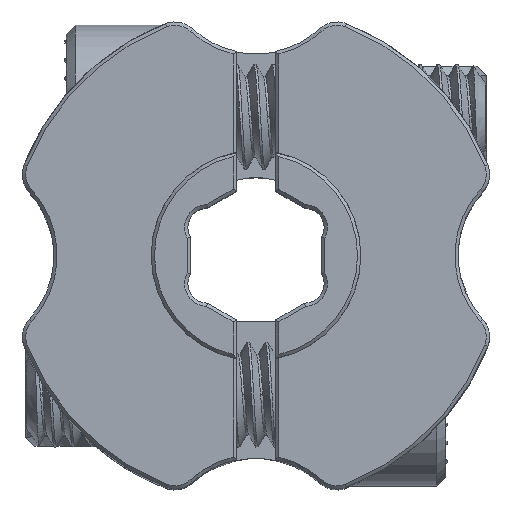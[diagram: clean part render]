
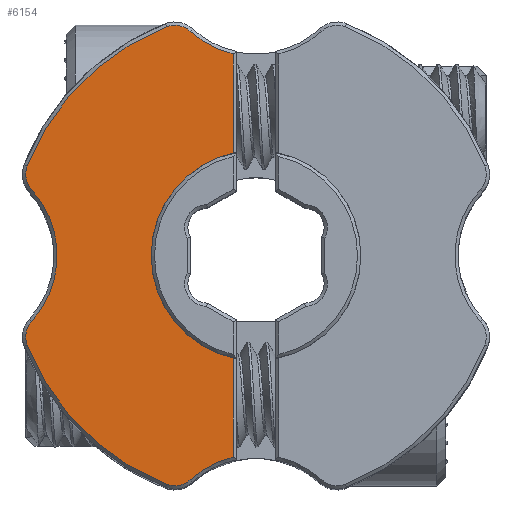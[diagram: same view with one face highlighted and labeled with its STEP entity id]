
A CAD part, top view. The second image highlights one B-rep face of the part: STEP entity #6154.
In plain terms, the highlighted planar face has unit normal (0, 0, 1).
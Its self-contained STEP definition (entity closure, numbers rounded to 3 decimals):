
#116=PLANE('',#6633);
#573=FACE_OUTER_BOUND('',#935,.T.);
#935=EDGE_LOOP('',(#5442,#5443,#5444,#5445,#5446,#5447,#5448,#5449,#5450,
#5451,#5452,#5453));
#1010=CIRCLE('',#6370,0.875);
#1128=CIRCLE('',#6631,4.);
#1129=CIRCLE('',#6634,3.725);
#1130=CIRCLE('',#6635,3.725);
#1131=CIRCLE('',#6636,0.875);
#1132=CIRCLE('',#6637,9.375);
#1133=CIRCLE('',#6638,0.875);
#1134=CIRCLE('',#6639,3.725);
#1135=CIRCLE('',#6640,0.875);
#1136=CIRCLE('',#6641,9.375);
#1846=LINE('',#56492,#2156);
#1847=LINE('',#56494,#2157);
#2156=VECTOR('',#7839,1000.);
#2157=VECTOR('',#7840,1000.);
#2451=VERTEX_POINT('',#16403);
#2452=VERTEX_POINT('',#16404);
#2761=VERTEX_POINT('',#56484);
#2762=VERTEX_POINT('',#56486);
#2763=VERTEX_POINT('',#56490);
#2764=VERTEX_POINT('',#56493);
#2765=VERTEX_POINT('',#56495);
#2766=VERTEX_POINT('',#56497);
#2767=VERTEX_POINT('',#56499);
#2768=VERTEX_POINT('',#56501);
#2769=VERTEX_POINT('',#56503);
#2770=VERTEX_POINT('',#56505);
#3168=EDGE_CURVE('',#2451,#2452,#1010,.T.);
#3676=EDGE_CURVE('',#2761,#2762,#1128,.T.);
#3678=EDGE_CURVE('',#2452,#2763,#1129,.T.);
#3679=EDGE_CURVE('',#2763,#2762,#1846,.T.);
#3680=EDGE_CURVE('',#2761,#2764,#1847,.T.);
#3681=EDGE_CURVE('',#2764,#2765,#1130,.T.);
#3682=EDGE_CURVE('',#2765,#2766,#1131,.T.);
#3683=EDGE_CURVE('',#2766,#2767,#1132,.T.);
#3684=EDGE_CURVE('',#2767,#2768,#1133,.T.);
#3685=EDGE_CURVE('',#2768,#2769,#1134,.T.);
#3686=EDGE_CURVE('',#2769,#2770,#1135,.T.);
#3687=EDGE_CURVE('',#2770,#2451,#1136,.T.);
#5442=ORIENTED_EDGE('',*,*,#3678,.T.);
#5443=ORIENTED_EDGE('',*,*,#3679,.T.);
#5444=ORIENTED_EDGE('',*,*,#3676,.F.);
#5445=ORIENTED_EDGE('',*,*,#3680,.T.);
#5446=ORIENTED_EDGE('',*,*,#3681,.T.);
#5447=ORIENTED_EDGE('',*,*,#3682,.T.);
#5448=ORIENTED_EDGE('',*,*,#3683,.T.);
#5449=ORIENTED_EDGE('',*,*,#3684,.T.);
#5450=ORIENTED_EDGE('',*,*,#3685,.T.);
#5451=ORIENTED_EDGE('',*,*,#3686,.T.);
#5452=ORIENTED_EDGE('',*,*,#3687,.T.);
#5453=ORIENTED_EDGE('',*,*,#3168,.T.);
#6154=ADVANCED_FACE('',(#573),#116,.T.);
#6370=AXIS2_PLACEMENT_3D('',#16405,#7149,#7150);
#6631=AXIS2_PLACEMENT_3D('',#56487,#7831,#7832);
#6633=AXIS2_PLACEMENT_3D('',#56489,#7835,#7836);
#6634=AXIS2_PLACEMENT_3D('',#56491,#7837,#7838);
#6635=AXIS2_PLACEMENT_3D('',#56496,#7841,#7842);
#6636=AXIS2_PLACEMENT_3D('',#56498,#7843,#7844);
#6637=AXIS2_PLACEMENT_3D('',#56500,#7845,#7846);
#6638=AXIS2_PLACEMENT_3D('',#56502,#7847,#7848);
#6639=AXIS2_PLACEMENT_3D('',#56504,#7849,#7850);
#6640=AXIS2_PLACEMENT_3D('',#56506,#7851,#7852);
#6641=AXIS2_PLACEMENT_3D('',#56507,#7853,#7854);
#7149=DIRECTION('center_axis',(0.,0.,1.));
#7150=DIRECTION('ref_axis',(0.,1.,0.));
#7831=DIRECTION('center_axis',(0.,0.,1.));
#7832=DIRECTION('ref_axis',(0.,1.,0.));
#7835=DIRECTION('center_axis',(0.,0.,1.));
#7836=DIRECTION('ref_axis',(0.,1.,0.));
#7837=DIRECTION('center_axis',(0.,0.,-1.));
#7838=DIRECTION('ref_axis',(0.,1.,0.));
#7839=DIRECTION('',(0.,1.,0.));
#7840=DIRECTION('',(0.,1.,0.));
#7841=DIRECTION('center_axis',(0.,0.,-1.));
#7842=DIRECTION('ref_axis',(0.,1.,0.));
#7843=DIRECTION('center_axis',(0.,0.,1.));
#7844=DIRECTION('ref_axis',(0.,1.,0.));
#7845=DIRECTION('center_axis',(0.,0.,1.));
#7846=DIRECTION('ref_axis',(0.,1.,0.));
#7847=DIRECTION('center_axis',(0.,0.,1.));
#7848=DIRECTION('ref_axis',(0.,1.,0.));
#7849=DIRECTION('center_axis',(0.,0.,-1.));
#7850=DIRECTION('ref_axis',(0.,1.,0.));
#7851=DIRECTION('center_axis',(0.,0.,1.));
#7852=DIRECTION('ref_axis',(0.,1.,0.));
#7853=DIRECTION('center_axis',(0.,0.,1.));
#7854=DIRECTION('ref_axis',(0.,1.,0.));
#16403=CARTESIAN_POINT('',(-3.419,-8.729,20.5));
#16404=CARTESIAN_POINT('',(-2.51,-8.561,20.5));
#16405=CARTESIAN_POINT('Origin',(-3.1,-7.915,20.5));
#56484=CARTESIAN_POINT('',(-0.875,3.903,20.5));
#56486=CARTESIAN_POINT('',(-0.875,-3.903,20.5));
#56487=CARTESIAN_POINT('Origin',(0.,0.,20.5));
#56489=CARTESIAN_POINT('Origin',(0.,0.,20.5));
#56490=CARTESIAN_POINT('',(-0.875,-7.693,20.5));
#56491=CARTESIAN_POINT('Origin',(0.,-11.314,
20.5));
#56492=CARTESIAN_POINT('',(-0.875,-3.929,20.5));
#56493=CARTESIAN_POINT('',(-0.875,7.693,20.5));
#56494=CARTESIAN_POINT('',(-0.875,7.793,20.5));
#56495=CARTESIAN_POINT('',(-2.51,8.561,20.5));
#56496=CARTESIAN_POINT('Origin',(0.,11.314,
20.5));
#56497=CARTESIAN_POINT('',(-3.419,8.729,20.5));
#56498=CARTESIAN_POINT('Origin',(-3.1,7.915,20.5));
#56499=CARTESIAN_POINT('',(-8.729,3.419,20.5));
#56500=CARTESIAN_POINT('Origin',(0.,0.,20.5));
#56501=CARTESIAN_POINT('',(-8.561,2.51,20.5));
#56502=CARTESIAN_POINT('Origin',(-7.915,3.1,20.5));
#56503=CARTESIAN_POINT('',(-8.561,-2.51,20.5));
#56504=CARTESIAN_POINT('Origin',(-11.314,0.,
20.5));
#56505=CARTESIAN_POINT('',(-8.729,-3.419,20.5));
#56506=CARTESIAN_POINT('Origin',(-7.915,-3.1,20.5));
#56507=CARTESIAN_POINT('Origin',(0.,0.,20.5));
